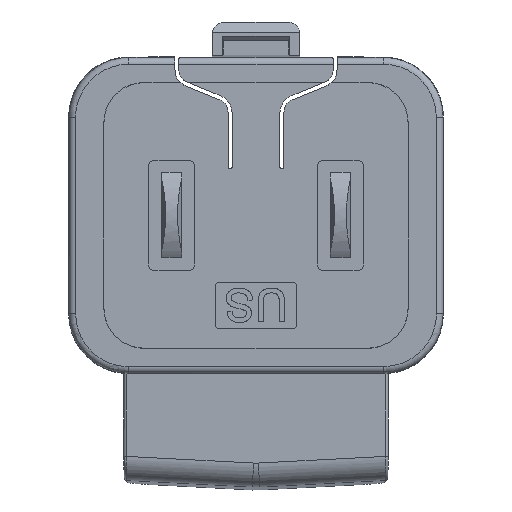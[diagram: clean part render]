
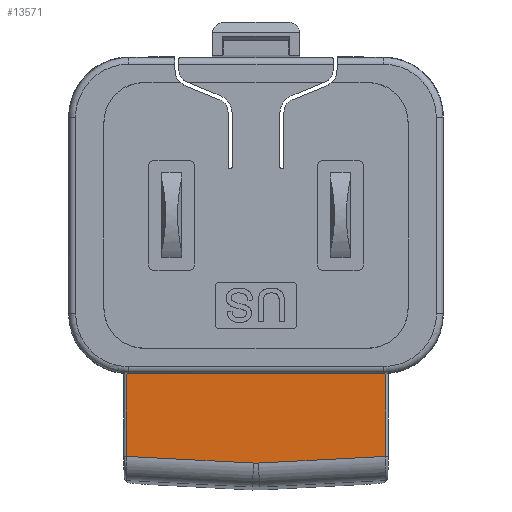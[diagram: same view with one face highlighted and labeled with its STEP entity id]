
A CAD part, top view. The second image highlights one B-rep face of the part: STEP entity #13571.
In plain terms, the highlighted planar face has unit normal (0, 0, 1).
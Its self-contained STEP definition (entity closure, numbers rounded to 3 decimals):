
#382=FACE_OUTER_BOUND('',#1091,.T.);
#1091=EDGE_LOOP('',(#8918,#8919,#8920,#8921,#8922,#8923,#8924,#8925));
#1817=ELLIPSE('',#14289,22.125,22.124);
#1818=ELLIPSE('',#14290,22.125,22.124);
#1926=LINE('',#18913,#3712);
#1927=LINE('',#18915,#3713);
#1928=LINE('',#18919,#3714);
#1929=LINE('',#18923,#3715);
#1930=LINE('',#18925,#3716);
#1931=LINE('',#18926,#3717);
#3712=VECTOR('',#15259,9.553);
#3713=VECTOR('',#15260,6.222);
#3714=VECTOR('',#15263,19.177);
#3715=VECTOR('',#15266,6.222);
#3716=VECTOR('',#15267,9.553);
#3717=VECTOR('',#15268,0.406);
#5502=VERTEX_POINT('',#18911);
#5503=VERTEX_POINT('',#18912);
#5504=VERTEX_POINT('',#18914);
#5505=VERTEX_POINT('',#18916);
#5506=VERTEX_POINT('',#18918);
#5507=VERTEX_POINT('',#18920);
#5508=VERTEX_POINT('',#18922);
#5509=VERTEX_POINT('',#18924);
#6863=EDGE_CURVE('',#5502,#5503,#1926,.T.);
#6864=EDGE_CURVE('',#5502,#5504,#1927,.T.);
#6865=EDGE_CURVE('',#5505,#5504,#1817,.T.);
#6866=EDGE_CURVE('',#5505,#5506,#1928,.T.);
#6867=EDGE_CURVE('',#5507,#5506,#1818,.T.);
#6868=EDGE_CURVE('',#5507,#5508,#1929,.T.);
#6869=EDGE_CURVE('',#5509,#5508,#1930,.T.);
#6870=EDGE_CURVE('',#5509,#5503,#1931,.T.);
#8918=ORIENTED_EDGE('',*,*,#6863,.F.);
#8919=ORIENTED_EDGE('',*,*,#6864,.T.);
#8920=ORIENTED_EDGE('',*,*,#6865,.F.);
#8921=ORIENTED_EDGE('',*,*,#6866,.T.);
#8922=ORIENTED_EDGE('',*,*,#6867,.F.);
#8923=ORIENTED_EDGE('',*,*,#6868,.T.);
#8924=ORIENTED_EDGE('',*,*,#6869,.F.);
#8925=ORIENTED_EDGE('',*,*,#6870,.T.);
#12980=PLANE('',#14288);
#13571=ADVANCED_FACE('',(#382),#12980,.T.);
#14288=AXIS2_PLACEMENT_3D('',#18910,#15257,#15258);
#14289=AXIS2_PLACEMENT_3D('',#18917,#15261,#15262);
#14290=AXIS2_PLACEMENT_3D('',#18921,#15264,#15265);
#15257=DIRECTION('center_axis',(0.,0.,1.));
#15258=DIRECTION('ref_axis',(1.,0.,0.));
#15259=DIRECTION('',(-0.999,-0.052,0.));
#15260=DIRECTION('',(0.,1.,0.));
#15261=DIRECTION('center_axis',(0.,0.,1.));
#15262=DIRECTION('ref_axis',(-0.045,0.999,0.));
#15263=DIRECTION('',(-1.,0.,0.));
#15264=DIRECTION('center_axis',(0.,0.,1.));
#15265=DIRECTION('ref_axis',(-0.045,-0.999,0.));
#15266=DIRECTION('',(0.,-1.,0.));
#15267=DIRECTION('',(-0.999,0.052,0.));
#15268=DIRECTION('',(1.,0.,0.));
#18910=CARTESIAN_POINT('Origin',(24.328,20.605,-1.354));
#18911=CARTESIAN_POINT('',(9.743,-45.518,-1.354));
#18912=CARTESIAN_POINT('',(0.203,-46.019,-1.354));
#18913=CARTESIAN_POINT('',(-20.777,-47.119,-1.354));
#18914=CARTESIAN_POINT('',(9.743,-39.296,-1.354));
#18915=CARTESIAN_POINT('',(9.743,-45.518,-1.354));
#18916=CARTESIAN_POINT('',(9.588,-39.305,-1.354));
#18917=CARTESIAN_POINT('Origin',(8.379,-17.214,-1.354));
#18918=CARTESIAN_POINT('',(-9.588,-39.305,-1.354));
#18919=CARTESIAN_POINT('',(17.317,-39.305,-1.354));
#18920=CARTESIAN_POINT('',(-9.743,-39.296,-1.354));
#18921=CARTESIAN_POINT('Origin',(-8.379,-17.214,-1.354));
#18922=CARTESIAN_POINT('',(-9.743,-45.518,-1.354));
#18923=CARTESIAN_POINT('',(-9.743,-39.296,-1.354));
#18924=CARTESIAN_POINT('',(-0.203,-46.019,-1.354));
#18925=CARTESIAN_POINT('',(-0.203,-46.019,-1.354));
#18926=CARTESIAN_POINT('',(24.328,-46.019,-1.354));
